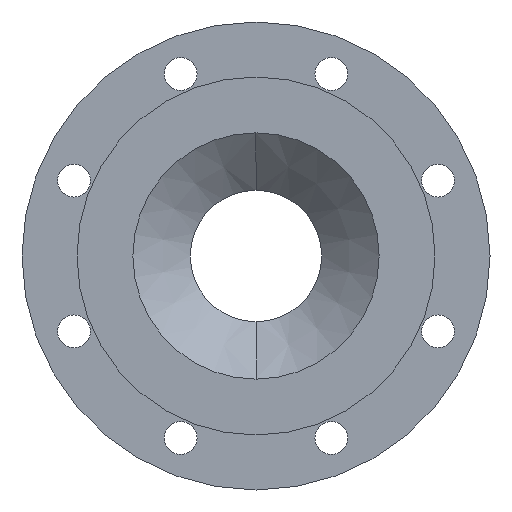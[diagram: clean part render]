
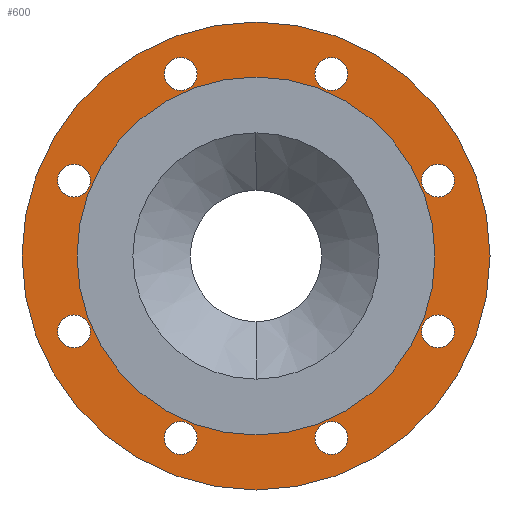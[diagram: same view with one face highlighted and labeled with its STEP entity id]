
A CAD part, left-side view. The second image highlights one B-rep face of the part: STEP entity #600.
In plain terms, the highlighted planar face has unit normal (-1, 0, 0).
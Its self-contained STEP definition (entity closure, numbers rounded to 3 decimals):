
#600=ADVANCED_FACE('',(#1090,#1091,#1092,#1093,#1094,#1095,#1096,#1097,#1098,#1099),#1100,.F.);
#1090=FACE_BOUND('',#1601,.T.);
#1091=FACE_BOUND('',#1602,.T.);
#1092=FACE_BOUND('',#1603,.T.);
#1093=FACE_BOUND('',#1604,.T.);
#1094=FACE_BOUND('',#1605,.T.);
#1095=FACE_BOUND('',#1606,.T.);
#1096=FACE_BOUND('',#1607,.T.);
#1097=FACE_BOUND('',#1608,.T.);
#1098=FACE_BOUND('',#1609,.T.);
#1099=FACE_OUTER_BOUND('',#1610,.T.);
#1100=PLANE('',#1611);
#1601=EDGE_LOOP('',(#2631,#2632));
#1602=EDGE_LOOP('',(#2633,#2634));
#1603=EDGE_LOOP('',(#2635,#2636));
#1604=EDGE_LOOP('',(#2637,#2638));
#1605=EDGE_LOOP('',(#2639,#2640));
#1606=EDGE_LOOP('',(#2641,#2642));
#1607=EDGE_LOOP('',(#2643,#2644));
#1608=EDGE_LOOP('',(#2645,#2646));
#1609=EDGE_LOOP('',(#2647,#2648));
#1610=EDGE_LOOP('',(#2649,#2650));
#1611=AXIS2_PLACEMENT_3D('',#2651,#2652,#2653);
#2631=ORIENTED_EDGE('',*,*,#3085,.T.);
#2632=ORIENTED_EDGE('',*,*,#2888,.T.);
#2633=ORIENTED_EDGE('',*,*,#2753,.T.);
#2634=ORIENTED_EDGE('',*,*,#3013,.T.);
#2635=ORIENTED_EDGE('',*,*,#2904,.T.);
#2636=ORIENTED_EDGE('',*,*,#3100,.T.);
#2637=ORIENTED_EDGE('',*,*,#3011,.T.);
#2638=ORIENTED_EDGE('',*,*,#2863,.T.);
#2639=ORIENTED_EDGE('',*,*,#2860,.T.);
#2640=ORIENTED_EDGE('',*,*,#2991,.T.);
#2641=ORIENTED_EDGE('',*,*,#3049,.T.);
#2642=ORIENTED_EDGE('',*,*,#3020,.T.);
#2643=ORIENTED_EDGE('',*,*,#3094,.T.);
#2644=ORIENTED_EDGE('',*,*,#2833,.T.);
#2645=ORIENTED_EDGE('',*,*,#2977,.T.);
#2646=ORIENTED_EDGE('',*,*,#3088,.T.);
#2647=ORIENTED_EDGE('',*,*,#2763,.T.);
#2648=ORIENTED_EDGE('',*,*,#3063,.T.);
#2649=ORIENTED_EDGE('',*,*,#2717,.F.);
#2650=ORIENTED_EDGE('',*,*,#2956,.F.);
#2651=CARTESIAN_POINT('',(1.0,0.0,0.));
#2652=DIRECTION('',(1.0,0.0,0.));
#2653=DIRECTION('',(0.,0.0,-1.0));
#2717=EDGE_CURVE('',#3147,#3150,#3151,.T.);
#2753=EDGE_CURVE('',#3205,#3209,#3211,.T.);
#2763=EDGE_CURVE('',#3223,#3227,#3229,.T.);
#2833=EDGE_CURVE('',#3341,#3339,#3342,.T.);
#2860=EDGE_CURVE('',#3379,#3383,#3385,.T.);
#2863=EDGE_CURVE('',#3390,#3388,#3391,.T.);
#2888=EDGE_CURVE('',#3427,#3425,#3428,.T.);
#2904=EDGE_CURVE('',#3447,#3451,#3453,.T.);
#2956=EDGE_CURVE('',#3150,#3147,#3526,.T.);
#2977=EDGE_CURVE('',#3550,#3554,#3556,.T.);
#2991=EDGE_CURVE('',#3383,#3379,#3572,.T.);
#3011=EDGE_CURVE('',#3388,#3390,#3598,.T.);
#3013=EDGE_CURVE('',#3209,#3205,#3600,.T.);
#3020=EDGE_CURVE('',#3609,#3607,#3610,.T.);
#3049=EDGE_CURVE('',#3607,#3609,#3644,.T.);
#3063=EDGE_CURVE('',#3227,#3223,#3658,.T.);
#3085=EDGE_CURVE('',#3425,#3427,#3680,.T.);
#3088=EDGE_CURVE('',#3554,#3550,#3683,.T.);
#3094=EDGE_CURVE('',#3339,#3341,#3689,.T.);
#3100=EDGE_CURVE('',#3451,#3447,#3695,.T.);
#3147=VERTEX_POINT('',#3757);
#3150=VERTEX_POINT('',#3761);
#3151=CIRCLE('',#3762,142.5);
#3205=VERTEX_POINT('',#3833);
#3209=VERTEX_POINT('',#3838);
#3211=CIRCLE('',#3841,10.0);
#3223=VERTEX_POINT('',#3857);
#3227=VERTEX_POINT('',#3862);
#3229=CIRCLE('',#3865,109.0);
#3339=VERTEX_POINT('',#4017);
#3341=VERTEX_POINT('',#4020);
#3342=CIRCLE('',#4021,10.0);
#3379=VERTEX_POINT('',#4069);
#3383=VERTEX_POINT('',#4074);
#3385=CIRCLE('',#4077,10.0);
#3388=VERTEX_POINT('',#4080);
#3390=VERTEX_POINT('',#4083);
#3391=CIRCLE('',#4084,10.0);
#3425=VERTEX_POINT('',#4129);
#3427=VERTEX_POINT('',#4132);
#3428=CIRCLE('',#4133,10.0);
#3447=VERTEX_POINT('',#4157);
#3451=VERTEX_POINT('',#4162);
#3453=CIRCLE('',#4165,10.0);
#3526=CIRCLE('',#4268,142.5);
#3550=VERTEX_POINT('',#4301);
#3554=VERTEX_POINT('',#4306);
#3556=CIRCLE('',#4309,10.0);
#3572=CIRCLE('',#4327,10.0);
#3598=CIRCLE('',#4355,10.0);
#3600=CIRCLE('',#4357,10.0);
#3607=VERTEX_POINT('',#4366);
#3609=VERTEX_POINT('',#4369);
#3610=CIRCLE('',#4370,10.0);
#3644=CIRCLE('',#4415,10.0);
#3658=CIRCLE('',#4433,109.0);
#3680=CIRCLE('',#4458,10.0);
#3683=CIRCLE('',#4461,10.0);
#3689=CIRCLE('',#4469,10.0);
#3695=CIRCLE('',#4475,10.0);
#3757=CARTESIAN_POINT('',(1.,0.0,-142.5));
#3761=CARTESIAN_POINT('',(1.,0.,142.5));
#3762=AXIS2_PLACEMENT_3D('',#4507,#4508,#4509);
#3833=CARTESIAN_POINT('',(1.0,45.922,-120.866));
#3838=CARTESIAN_POINT('',(1.,45.922,-100.866));
#3841=AXIS2_PLACEMENT_3D('',#4550,#4551,#4552);
#3857=CARTESIAN_POINT('',(1.,0.0,-109.0));
#3862=CARTESIAN_POINT('',(1.,0.,109.0));
#3865=AXIS2_PLACEMENT_3D('',#4562,#4563,#4564);
#4017=CARTESIAN_POINT('',(1.0,-110.866,-55.922));
#4020=CARTESIAN_POINT('',(1.0,-110.866,-35.922));
#4021=AXIS2_PLACEMENT_3D('',#4635,#4636,#4637);
#4069=CARTESIAN_POINT('',(1.0,110.866,35.922));
#4074=CARTESIAN_POINT('',(1.,110.866,55.922));
#4077=AXIS2_PLACEMENT_3D('',#4669,#4670,#4671);
#4080=CARTESIAN_POINT('',(1.0,-45.922,100.866));
#4083=CARTESIAN_POINT('',(1.,-45.922,120.866));
#4084=AXIS2_PLACEMENT_3D('',#4673,#4674,#4675);
#4129=CARTESIAN_POINT('',(1.0,110.866,-55.922));
#4132=CARTESIAN_POINT('',(1.0,110.866,-35.922));
#4133=AXIS2_PLACEMENT_3D('',#4700,#4701,#4702);
#4157=CARTESIAN_POINT('',(1.0,-110.866,35.922));
#4162=CARTESIAN_POINT('',(1.,-110.866,55.922));
#4165=AXIS2_PLACEMENT_3D('',#4722,#4723,#4724);
#4268=AXIS2_PLACEMENT_3D('',#4770,#4771,#4772);
#4301=CARTESIAN_POINT('',(1.0,-45.922,-120.866));
#4306=CARTESIAN_POINT('',(1.,-45.922,-100.866));
#4309=AXIS2_PLACEMENT_3D('',#4787,#4788,#4789);
#4327=AXIS2_PLACEMENT_3D('',#4804,#4805,#4806);
#4355=AXIS2_PLACEMENT_3D('',#4839,#4840,#4841);
#4357=AXIS2_PLACEMENT_3D('',#4842,#4843,#4844);
#4366=CARTESIAN_POINT('',(1.0,45.922,100.866));
#4369=CARTESIAN_POINT('',(1.,45.922,120.866));
#4370=AXIS2_PLACEMENT_3D('',#4851,#4852,#4853);
#4415=AXIS2_PLACEMENT_3D('',#4880,#4881,#4882);
#4433=AXIS2_PLACEMENT_3D('',#4887,#4888,#4889);
#4458=AXIS2_PLACEMENT_3D('',#4908,#4909,#4910);
#4461=AXIS2_PLACEMENT_3D('',#4911,#4912,#4913);
#4469=AXIS2_PLACEMENT_3D('',#4916,#4917,#4918);
#4475=AXIS2_PLACEMENT_3D('',#4919,#4920,#4921);
#4507=CARTESIAN_POINT('',(1.0,0.0,0.));
#4508=DIRECTION('',(1.0,0.0,0.));
#4509=DIRECTION('',(0.,0.0,-1.0));
#4550=CARTESIAN_POINT('',(1.,45.922,-110.866));
#4551=DIRECTION('',(1.0,0.0,0.));
#4552=DIRECTION('',(0.,0.0,-1.0));
#4562=CARTESIAN_POINT('',(1.0,0.0,0.));
#4563=DIRECTION('',(1.0,0.0,0.));
#4564=DIRECTION('',(0.,0.0,-1.0));
#4635=CARTESIAN_POINT('',(1.0,-110.866,-45.922));
#4636=DIRECTION('',(1.0,0.0,0.));
#4637=DIRECTION('',(0.,0.0,-1.0));
#4669=CARTESIAN_POINT('',(1.,110.866,45.922));
#4670=DIRECTION('',(1.0,0.0,0.));
#4671=DIRECTION('',(0.,0.0,-1.0));
#4673=CARTESIAN_POINT('',(1.,-45.922,110.866));
#4674=DIRECTION('',(1.0,0.0,0.));
#4675=DIRECTION('',(0.,0.0,-1.0));
#4700=CARTESIAN_POINT('',(1.0,110.866,-45.922));
#4701=DIRECTION('',(1.0,0.0,0.));
#4702=DIRECTION('',(0.,0.0,-1.0));
#4722=CARTESIAN_POINT('',(1.,-110.866,45.922));
#4723=DIRECTION('',(1.0,0.0,0.));
#4724=DIRECTION('',(0.,0.0,-1.0));
#4770=CARTESIAN_POINT('',(1.0,0.0,0.));
#4771=DIRECTION('',(1.0,0.0,0.));
#4772=DIRECTION('',(0.,0.0,-1.0));
#4787=CARTESIAN_POINT('',(1.,-45.922,-110.866));
#4788=DIRECTION('',(1.0,0.0,0.));
#4789=DIRECTION('',(0.,0.0,-1.0));
#4804=CARTESIAN_POINT('',(1.,110.866,45.922));
#4805=DIRECTION('',(1.0,0.0,0.));
#4806=DIRECTION('',(0.,0.0,-1.0));
#4839=CARTESIAN_POINT('',(1.,-45.922,110.866));
#4840=DIRECTION('',(1.0,0.0,0.));
#4841=DIRECTION('',(0.,0.0,-1.0));
#4842=CARTESIAN_POINT('',(1.,45.922,-110.866));
#4843=DIRECTION('',(1.0,0.0,0.));
#4844=DIRECTION('',(0.,0.0,-1.0));
#4851=CARTESIAN_POINT('',(1.,45.922,110.866));
#4852=DIRECTION('',(1.0,0.0,0.));
#4853=DIRECTION('',(0.,0.0,-1.0));
#4880=CARTESIAN_POINT('',(1.,45.922,110.866));
#4881=DIRECTION('',(1.0,0.0,0.));
#4882=DIRECTION('',(0.,0.0,-1.0));
#4887=CARTESIAN_POINT('',(1.0,0.0,0.));
#4888=DIRECTION('',(1.0,0.0,0.));
#4889=DIRECTION('',(0.,0.0,-1.0));
#4908=CARTESIAN_POINT('',(1.0,110.866,-45.922));
#4909=DIRECTION('',(1.0,0.0,0.));
#4910=DIRECTION('',(0.,0.0,-1.0));
#4911=CARTESIAN_POINT('',(1.,-45.922,-110.866));
#4912=DIRECTION('',(1.0,0.0,0.));
#4913=DIRECTION('',(0.,0.0,-1.0));
#4916=CARTESIAN_POINT('',(1.0,-110.866,-45.922));
#4917=DIRECTION('',(1.0,0.0,0.));
#4918=DIRECTION('',(0.,0.0,-1.0));
#4919=CARTESIAN_POINT('',(1.,-110.866,45.922));
#4920=DIRECTION('',(1.0,0.0,0.));
#4921=DIRECTION('',(0.,0.0,-1.0));
